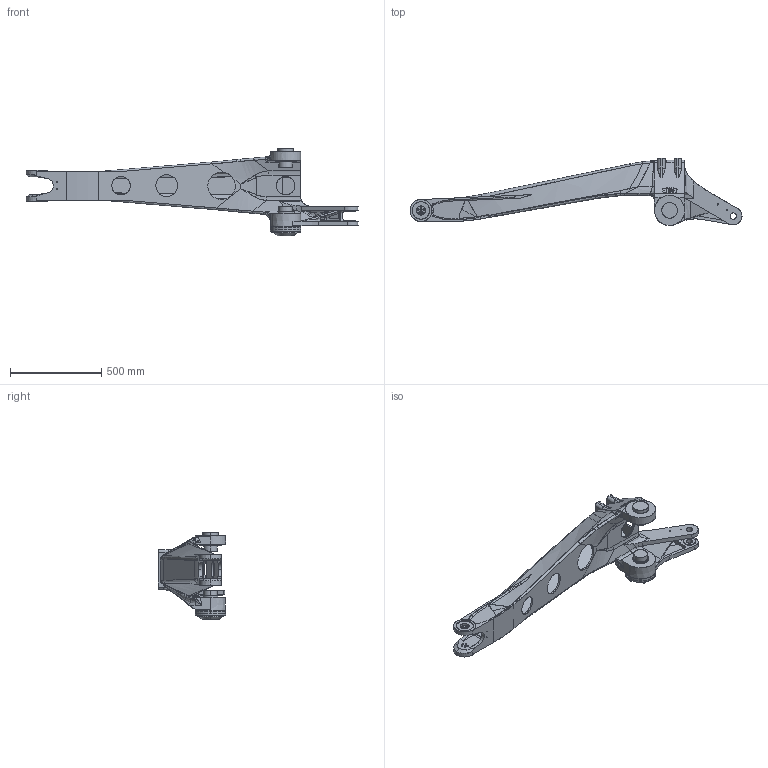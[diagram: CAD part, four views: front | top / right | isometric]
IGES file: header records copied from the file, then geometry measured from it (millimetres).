
Start section: SolidWorks IGES file using analytic representation for surfaces
Global section: file name: C:\Documents and Settings\u014048\Desktop\pallettizzatore sempleficato sellingarea 2010-08-25\SMART5 PAL 260-3.1 (3D-SOLIDWORKS)\Nuova cartella\SMART5 PAL 260-3.1_p06a.IGS; native system: SolidWorks 2007; preprocessor: SolidWorks 2007; author: u014048; date: 100826.082728; units: millimetre
Bounding box: 1816.17 x 367.5 x 480.5 mm (x, y, z)
Surface area: 2369650.9 mm2 (no closed solid volume)
Topology: 0 solids, 0 shells, 770 faces, 13960 edges, 13936 vertices
Faces by surface type: bspline 479, revolution 291
